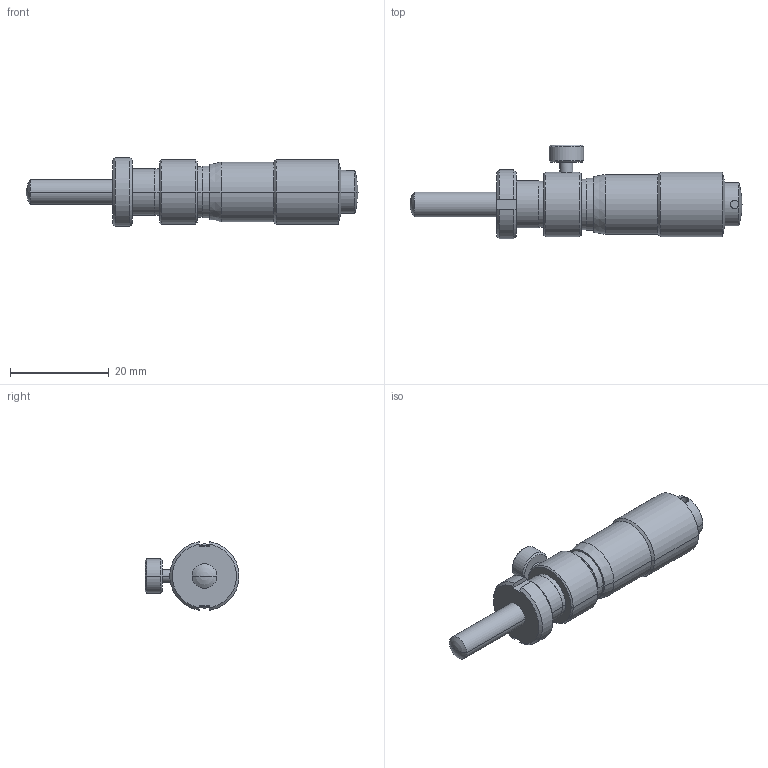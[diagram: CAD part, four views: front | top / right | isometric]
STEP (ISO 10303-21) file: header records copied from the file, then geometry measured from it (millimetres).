
FILE_DESCRIPTION(('Creo Elements/Direct Modeling STEP Export'),'2;1');
FILE_NAME('148-153_MHS4-13LC.stp','2014-02-06T18:40:54',(''),(''),'Creo Elements/Direct Modeling STEP processor for AP214 (Solid Model)','Creo Elements/Direct Modeling 18.1B 29-Sep-2012 (C) Parametric Technology GmbH','');
FILE_SCHEMA(('AUTOMOTIVE_DESIGN { 1 0 10303 214 1 1 1 1 }'));
Length unit declared in the file: millimetre
Products named in the file (1): 148-153_MHS4-13LC
Bounding box: 67.1 x 18.98 x 13.86 mm (x, y, z)
Volume: 6102.6 mm3; surface area: 2741.8 mm2
Topology: 1 solids, 1 shells, 65 faces, 144 edges, 87 vertices
Faces by surface type: cylinder 26, cone 18, plane 17, sphere 4
Entity records: 2294 total; most frequent: CARTESIAN_POINT 943, ORIENTED_EDGE 280, DIRECTION 260, EDGE_CURVE 140, AXIS2_PLACEMENT_3D 101, VERTEX_POINT 87, EDGE_LOOP 75, FACE_OUTER_BOUND 65
